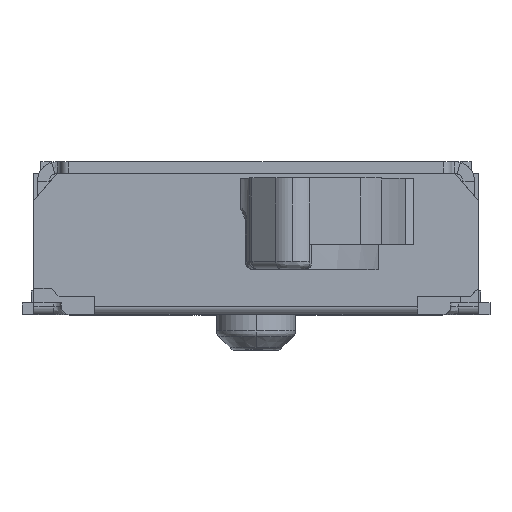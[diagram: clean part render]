
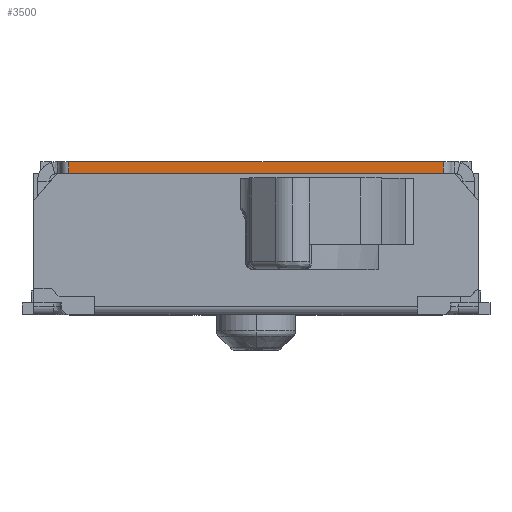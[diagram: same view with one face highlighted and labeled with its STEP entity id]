
A CAD part, top view. The second image highlights one B-rep face of the part: STEP entity #3500.
In plain terms, the highlighted planar face has unit normal (0, 0, 1).
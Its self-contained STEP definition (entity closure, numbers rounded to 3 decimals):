
#2193 = VERTEX_POINT ( 'NONE', #14746 ) ;
#2195 = EDGE_CURVE ( 'NONE', #2193, #2196, #14745, .T. ) ;
#2196 = VERTEX_POINT ( 'NONE', #14741 ) ;
#2826 = ORIENTED_EDGE ( 'NONE', *, *, #2195, .F. ) ;
#3472 = ORIENTED_EDGE ( 'NONE', *, *, #3474, .T. ) ;
#3474 = EDGE_CURVE ( 'NONE', #2193, #3475, #6821, .T. ) ;
#3475 = VERTEX_POINT ( 'NONE', #6609 ) ;
#3476 = ORIENTED_EDGE ( 'NONE', *, *, #3477, .F. ) ;
#3477 = EDGE_CURVE ( 'NONE', #3494, #3475, #6880, .T. ) ;
#3493 = EDGE_CURVE ( 'NONE', #2196, #3494, #6935, .T. ) ;
#3494 = VERTEX_POINT ( 'NONE', #6931 ) ;
#3500 = ADVANCED_FACE ( 'NONE', ( #6929 ), #6974, .F. ) ;
#3501 = EDGE_LOOP ( 'NONE', ( #3553, #2826, #3472, #3476 ) ) ;
#3553 = ORIENTED_EDGE ( 'NONE', *, *, #3493, .F. ) ;
#6609 = CARTESIAN_POINT ( 'NONE',  ( -2.395, 1.79, 2.3 ) ) ;
#6610 = CARTESIAN_POINT ( 'NONE',  ( -2.395, 1.865, 2.3 ) ) ;
#6612 = DIRECTION ( 'NONE',  ( 0., -1., 0. ) ) ;
#6613 = VECTOR ( 'NONE', #6612, 1000. ) ;
#6821 = LINE ( 'NONE', #6610, #6613 ) ;
#6877 = DIRECTION ( 'NONE',  ( -1., 0., 0. ) ) ;
#6878 = VECTOR ( 'NONE', #6877, 1000. ) ;
#6879 = CARTESIAN_POINT ( 'NONE',  ( -0.02, 1.79, 2.3 ) ) ;
#6880 = LINE ( 'NONE', #6879, #6878 ) ;
#6929 = FACE_OUTER_BOUND ( 'NONE', #3501, .T. ) ;
#6931 = CARTESIAN_POINT ( 'NONE',  ( 2.355, 1.79, 2.3 ) ) ;
#6932 = DIRECTION ( 'NONE',  ( 0., -1., 0. ) ) ;
#6933 = VECTOR ( 'NONE', #6932, 1000. ) ;
#6934 = CARTESIAN_POINT ( 'NONE',  ( 2.355, 1.865, 2.3 ) ) ;
#6935 = LINE ( 'NONE', #6934, #6933 ) ;
#6970 = DIRECTION ( 'NONE',  ( 0., -1., 0. ) ) ;
#6971 = DIRECTION ( 'NONE',  ( 0., 0., -1. ) ) ;
#6972 = CARTESIAN_POINT ( 'NONE',  ( 2.355, 1.94, 2.3 ) ) ;
#6973 = AXIS2_PLACEMENT_3D ( 'NONE', #6972, #6971, #6970 ) ;
#6974 = PLANE ( 'NONE',  #6973 ) ;
#14741 = CARTESIAN_POINT ( 'NONE',  ( 2.355, 1.94, 2.3 ) ) ;
#14742 = DIRECTION ( 'NONE',  ( 1., 0., 0. ) ) ;
#14743 = VECTOR ( 'NONE', #14742, 1000. ) ;
#14744 = CARTESIAN_POINT ( 'NONE',  ( -0.02, 1.94, 2.3 ) ) ;
#14745 = LINE ( 'NONE', #14744, #14743 ) ;
#14746 = CARTESIAN_POINT ( 'NONE',  ( -2.395, 1.94, 2.3 ) ) ;
